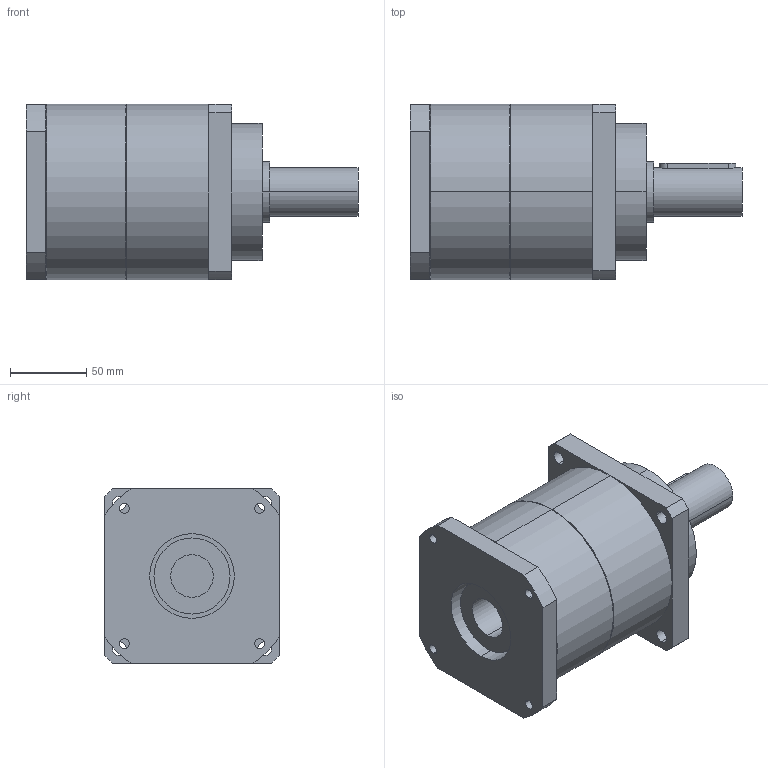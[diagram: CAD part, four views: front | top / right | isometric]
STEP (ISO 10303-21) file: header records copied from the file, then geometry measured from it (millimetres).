
FILE_DESCRIPTION(('CoCreate Modeling STEP Export'),'2;1');
FILE_NAME('GPT120_ig-3-4-5-7-10_32_B5A_28_P01.stp','2015-02-04T17:00:29',(''),(''),'CoCreate Modeling STEP processor for AP214 (Solid Model)','CoCreate Modeling 16.00C 25-Feb-2009 (C) Parametric Technology GmbH','');
FILE_SCHEMA(('AUTOMOTIVE_DESIGN { 1 0 10303 214 1 1 1 1 }'));
Length unit declared in the file: millimetre
Products named in the file (2): GPT120_ig-3-4-5-7-10_32_B5A_28_P01
Assembly tree (1 placements, depth 2):
  GPT120_ig-3-4-5-7-10_32_B5A_28_P01
    GPT120_ig-3-4-5-7-10_32_B5A_28_P01
Bounding box: 218 x 115 x 115 mm (x, y, z)
Volume: 1594898.2 mm3; surface area: 105939.6 mm2
Topology: 1 solids, 1 shells, 74 faces, 196 edges, 133 vertices
Faces by surface type: cylinder 44, plane 26, cone 4
Entity records: 2493 total; most frequent: CARTESIAN_POINT 747, ORIENTED_EDGE 392, DIRECTION 310, EDGE_CURVE 196, VERTEX_POINT 133, AXIS2_PLACEMENT_3D 114, EDGE_LOOP 99, VECTOR 82
